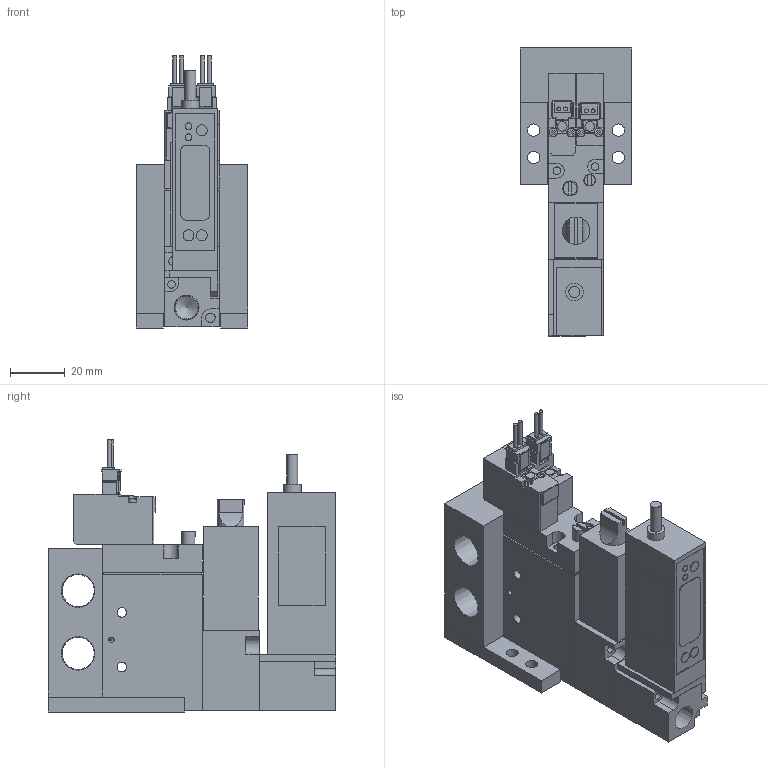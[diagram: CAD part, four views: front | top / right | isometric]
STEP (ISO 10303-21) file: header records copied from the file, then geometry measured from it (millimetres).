
FILE_DESCRIPTION(('STEP AP203'),'1');
FILE_NAME('BMPV32M2NV(R)G25AL101.stp','2025-06-17T00:44:12',(' '),(' '),'Spatial InterOp 3D',' ',' ');
FILE_SCHEMA(('CONFIG_CONTROL_DESIGN'));
Length unit declared in the file: millimetre
Products named in the file (16): BMPV32M2NV(R)G25AL101; MB01; MB BRACKET; Pressure sensor VGL; ___-3(Rc); Filter Assy; __; _____; ___ ___; ___; upper plate-A; ______; ____; VACUUM VALVE FUNCTION MPV42-A; UV280-4E
Assembly tree (15 placements, depth 2):
  BMPV32M2NV(R)G25AL101
    MB01
    MB BRACKET
    MB BRACKET
    Pressure sensor VGL
    ___-3(Rc)
    Filter Assy
    __
    _____
    ___ ___
    ___
    upper plate-A
    ______
    ____
    VACUUM VALVE FUNCTION MPV42-A
    UV280-4E
Bounding box: 41 x 105.5 x 99.75 mm (x, y, z)
Volume: 151197.5 mm3; surface area: 51758 mm2
Topology: 15 solids, 15 shells, 441 faces, 1126 edges, 746 vertices
Faces by surface type: plane 338, cylinder 88, cone 15
Full cylindrical faces by diameter (mm): 1.4 x4, 1.8 x2, 2 x2, 2.5 x8, 2.8 x4, 3 x4, 3.5 x14, 4 x5, 4.2 x1, 4.5 x4, 5 x1, 5.5 x1, 6.5 x7, 8.2 x1, 8.759 x1, 11.776 x2
Entity records: 13619 total; most frequent: CARTESIAN_POINT 2284, DIRECTION 2145, ORIENTED_EDGE 2046, EDGE_CURVE 1023, LINE 807, VECTOR 807, VERTEX_POINT 730, AXIS2_PLACEMENT_3D 669
